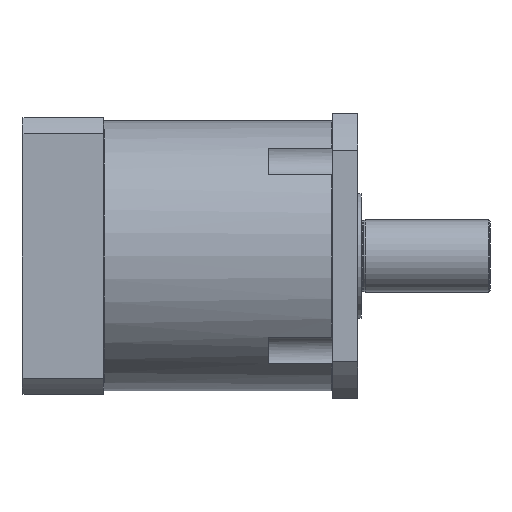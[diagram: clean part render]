
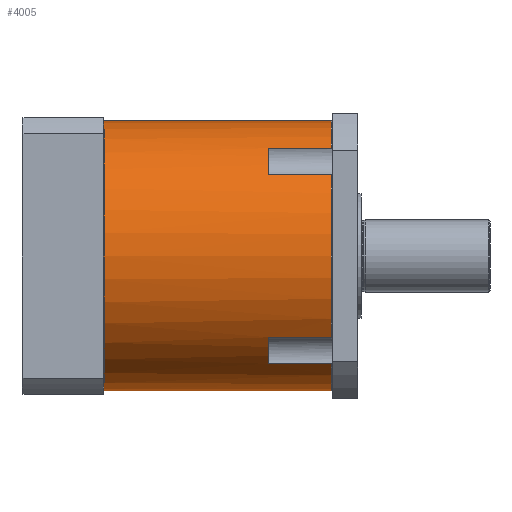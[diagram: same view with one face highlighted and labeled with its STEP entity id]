
A CAD part, front view. The second image highlights one B-rep face of the part: STEP entity #4005.
In plain terms, the highlighted cylindrical face has radius 60 mm (diameter 120 mm), a partial arc.
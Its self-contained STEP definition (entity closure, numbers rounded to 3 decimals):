
#104 = LINE ( 'NONE', #12776, #3225 ) ;
#114 = VERTEX_POINT ( 'NONE', #20352 ) ;
#825 = LINE ( 'NONE', #20348, #5474 ) ;
#866 = DIRECTION ( 'NONE',  ( 0., 0., 1. ) ) ;
#1046 = VERTEX_POINT ( 'NONE', #2343 ) ;
#1907 = CARTESIAN_POINT ( 'NONE',  ( 73.5, -47.897, -36.137 ) ) ;
#2180 = CIRCLE ( 'NONE', #6066, 60. ) ;
#2207 = VERTEX_POINT ( 'NONE', #14313 ) ;
#2343 = CARTESIAN_POINT ( 'NONE',  ( 101.5, -36.137, 47.897 ) ) ;
#2358 = LINE ( 'NONE', #21275, #4376 ) ;
#2386 = CIRCLE ( 'NONE', #16118, 60. ) ;
#2665 = EDGE_CURVE ( 'NONE', #16580, #9870, #2386, .T. ) ;
#3149 = CARTESIAN_POINT ( 'NONE',  ( 101.5, 0., 0. ) ) ;
#3225 = VECTOR ( 'NONE', #10371, 1000. ) ;
#3748 = ORIENTED_EDGE ( 'NONE', *, *, #31526, .T. ) ;
#4005 = ADVANCED_FACE ( 'NONE', ( #22683 ), #9416, .T. ) ;
#4080 = EDGE_CURVE ( 'NONE', #2207, #114, #2358, .T. ) ;
#4258 = VERTEX_POINT ( 'NONE', #30834 ) ;
#4261 = CARTESIAN_POINT ( 'NONE',  ( 52.368, 0., 0. ) ) ;
#4376 = VECTOR ( 'NONE', #10096, 1000. ) ;
#4413 = VERTEX_POINT ( 'NONE', #6779 ) ;
#4724 = CARTESIAN_POINT ( 'NONE',  ( 73.5, -36.137, -47.897 ) ) ;
#4961 = VERTEX_POINT ( 'NONE', #4724 ) ;
#5474 = VECTOR ( 'NONE', #6150, 1000. ) ;
#5602 = DIRECTION ( 'NONE',  ( 0., 0., -1. ) ) ;
#5920 = ORIENTED_EDGE ( 'NONE', *, *, #4080, .F. ) ;
#6012 = EDGE_CURVE ( 'NONE', #4413, #4961, #104, .T. ) ;
#6066 = AXIS2_PLACEMENT_3D ( 'NONE', #8914, #9090, #866 ) ;
#6150 = DIRECTION ( 'NONE',  ( -1., 0., 0. ) ) ;
#6191 = CARTESIAN_POINT ( 'NONE',  ( 73.5, 0., 0. ) ) ;
#6561 = DIRECTION ( 'NONE',  ( 0., 0., -1. ) ) ;
#6676 = VERTEX_POINT ( 'NONE', #1907 ) ;
#6779 = CARTESIAN_POINT ( 'NONE',  ( 101.5, -36.137, -47.897 ) ) ;
#7253 = DIRECTION ( 'NONE',  ( -1., 0., 0. ) ) ;
#7733 = EDGE_CURVE ( 'NONE', #4258, #9870, #825, .T. ) ;
#8143 = DIRECTION ( 'NONE',  ( 1., 0., 0. ) ) ;
#8303 = VERTEX_POINT ( 'NONE', #25063 ) ;
#8496 = CARTESIAN_POINT ( 'NONE',  ( 73.5, -36.137, 47.897 ) ) ;
#8914 = CARTESIAN_POINT ( 'NONE',  ( 101.5, 0., 0. ) ) ;
#9090 = DIRECTION ( 'NONE',  ( -1., 0., 0. ) ) ;
#9177 = CIRCLE ( 'NONE', #20738, 60. ) ;
#9304 = DIRECTION ( 'NONE',  ( 0., 0., 1. ) ) ;
#9376 = CIRCLE ( 'NONE', #17060, 60. ) ;
#9416 = CYLINDRICAL_SURFACE ( 'NONE', #21400, 60. ) ;
#9870 = VERTEX_POINT ( 'NONE', #28808 ) ;
#9989 = CIRCLE ( 'NONE', #22104, 60. ) ;
#10096 = DIRECTION ( 'NONE',  ( 1., 0., 0. ) ) ;
#10371 = DIRECTION ( 'NONE',  ( -1., 0., 0. ) ) ;
#10708 = CARTESIAN_POINT ( 'NONE',  ( 101.5, 0., -60. ) ) ;
#11078 = VECTOR ( 'NONE', #8143, 1000. ) ;
#11080 = CARTESIAN_POINT ( 'NONE',  ( 0.5, 0., 0. ) ) ;
#11445 = DIRECTION ( 'NONE',  ( 1., 0., 0. ) ) ;
#11708 = VECTOR ( 'NONE', #16996, 1000. ) ;
#12776 = CARTESIAN_POINT ( 'NONE',  ( 87.75, -36.137, -47.897 ) ) ;
#13516 = ORIENTED_EDGE ( 'NONE', *, *, #6012, .T. ) ;
#14005 = CARTESIAN_POINT ( 'NONE',  ( 101.5, 0., 0. ) ) ;
#14274 = CARTESIAN_POINT ( 'NONE',  ( 73.5, 0., 0. ) ) ;
#14313 = CARTESIAN_POINT ( 'NONE',  ( 0.5, 0., 60. ) ) ;
#14529 = EDGE_CURVE ( 'NONE', #1046, #114, #2180, .T. ) ;
#14727 = ORIENTED_EDGE ( 'NONE', *, *, #7733, .T. ) ;
#14731 = DIRECTION ( 'NONE',  ( 0., 0., -1. ) ) ;
#14836 = VECTOR ( 'NONE', #11445, 1000. ) ;
#14913 = DIRECTION ( 'NONE',  ( 1., 0., 0. ) ) ;
#15315 = VERTEX_POINT ( 'NONE', #30802 ) ;
#16118 = AXIS2_PLACEMENT_3D ( 'NONE', #6191, #24064, #16661 ) ;
#16580 = VERTEX_POINT ( 'NONE', #8496 ) ;
#16661 = DIRECTION ( 'NONE',  ( 0., 0., -1. ) ) ;
#16899 = ORIENTED_EDGE ( 'NONE', *, *, #24656, .T. ) ;
#16996 = DIRECTION ( 'NONE',  ( 1., 0., 0. ) ) ;
#17060 = AXIS2_PLACEMENT_3D ( 'NONE', #11080, #31849, #5602 ) ;
#17102 = AXIS2_PLACEMENT_3D ( 'NONE', #14005, #27419, #27267 ) ;
#19086 = ORIENTED_EDGE ( 'NONE', *, *, #14529, .T. ) ;
#19436 = LINE ( 'NONE', #30213, #11708 ) ;
#19467 = EDGE_CURVE ( 'NONE', #8303, #20980, #19436, .T. ) ;
#19931 = ORIENTED_EDGE ( 'NONE', *, *, #26707, .T. ) ;
#20010 = ORIENTED_EDGE ( 'NONE', *, *, #19467, .T. ) ;
#20348 = CARTESIAN_POINT ( 'NONE',  ( 87.75, -47.897, 36.137 ) ) ;
#20352 = CARTESIAN_POINT ( 'NONE',  ( 101.5, 0., 60. ) ) ;
#20488 = EDGE_LOOP ( 'NONE', ( #5920, #19931, #20010, #3748, #13516, #25238, #28546, #16899, #14727, #22962, #21017, #19086 ) ) ;
#20738 = AXIS2_PLACEMENT_3D ( 'NONE', #3149, #7253, #9304 ) ;
#20980 = VERTEX_POINT ( 'NONE', #10708 ) ;
#21017 = ORIENTED_EDGE ( 'NONE', *, *, #33175, .T. ) ;
#21275 = CARTESIAN_POINT ( 'NONE',  ( 52.368, 0., 60. ) ) ;
#21397 = CARTESIAN_POINT ( 'NONE',  ( 87.75, -36.137, 47.897 ) ) ;
#21400 = AXIS2_PLACEMENT_3D ( 'NONE', #4261, #14913, #14731 ) ;
#22104 = AXIS2_PLACEMENT_3D ( 'NONE', #14274, #32131, #6561 ) ;
#22683 = FACE_OUTER_BOUND ( 'NONE', #20488, .T. ) ;
#22962 = ORIENTED_EDGE ( 'NONE', *, *, #2665, .F. ) ;
#23411 = CARTESIAN_POINT ( 'NONE',  ( 87.75, -47.897, -36.137 ) ) ;
#24064 = DIRECTION ( 'NONE',  ( 1., 0., 0. ) ) ;
#24656 = EDGE_CURVE ( 'NONE', #15315, #4258, #9177, .T. ) ;
#25063 = CARTESIAN_POINT ( 'NONE',  ( 0.5, 0., -60. ) ) ;
#25238 = ORIENTED_EDGE ( 'NONE', *, *, #33719, .F. ) ;
#25902 = CIRCLE ( 'NONE', #17102, 60. ) ;
#26447 = EDGE_CURVE ( 'NONE', #6676, #15315, #29673, .T. ) ;
#26707 = EDGE_CURVE ( 'NONE', #2207, #8303, #9376, .T. ) ;
#27267 = DIRECTION ( 'NONE',  ( 0., 0., 1. ) ) ;
#27419 = DIRECTION ( 'NONE',  ( -1., 0., 0. ) ) ;
#28546 = ORIENTED_EDGE ( 'NONE', *, *, #26447, .T. ) ;
#28808 = CARTESIAN_POINT ( 'NONE',  ( 73.5, -47.897, 36.137 ) ) ;
#29673 = LINE ( 'NONE', #23411, #14836 ) ;
#30213 = CARTESIAN_POINT ( 'NONE',  ( 52.368, 0., -60. ) ) ;
#30802 = CARTESIAN_POINT ( 'NONE',  ( 101.5, -47.897, -36.137 ) ) ;
#30834 = CARTESIAN_POINT ( 'NONE',  ( 101.5, -47.897, 36.137 ) ) ;
#31526 = EDGE_CURVE ( 'NONE', #20980, #4413, #25902, .T. ) ;
#31849 = DIRECTION ( 'NONE',  ( 1., 0., 0. ) ) ;
#32013 = LINE ( 'NONE', #21397, #11078 ) ;
#32131 = DIRECTION ( 'NONE',  ( 1., 0., 0. ) ) ;
#33175 = EDGE_CURVE ( 'NONE', #16580, #1046, #32013, .T. ) ;
#33719 = EDGE_CURVE ( 'NONE', #6676, #4961, #9989, .T. ) ;
